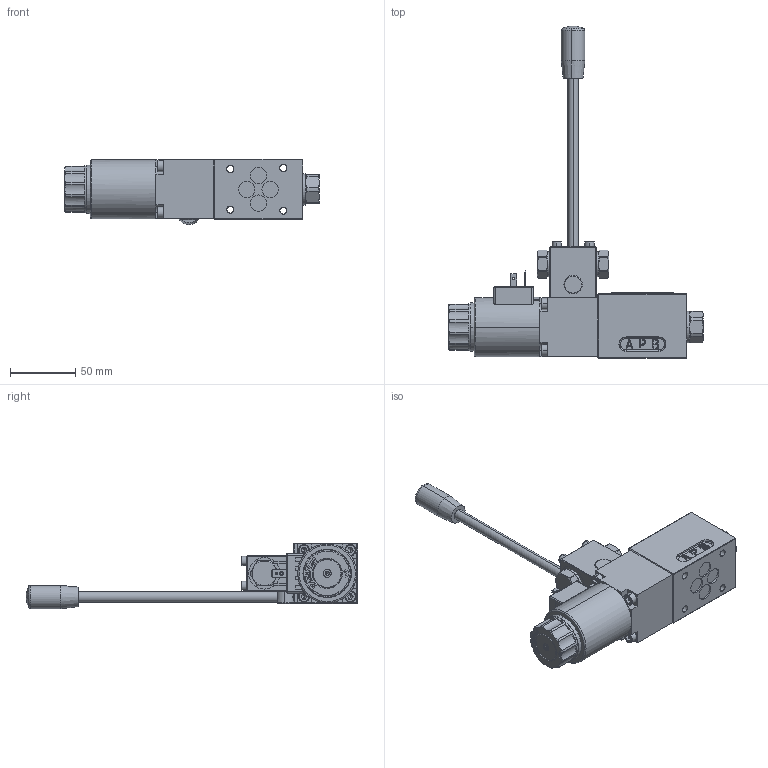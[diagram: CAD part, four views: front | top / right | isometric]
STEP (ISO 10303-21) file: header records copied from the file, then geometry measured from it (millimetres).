
FILE_DESCRIPTION (( 'STEP AP214' ), '1' );
FILE_NAME ('WDMFA06-AB1--R115-WD-Z568.STEP', '2024-02-26T10:14:33', ( '' ), ( '' ), 'SwSTEP 2.0', 'SolidWorks 2022', '' );
FILE_SCHEMA (( 'AUTOMOTIVE_DESIGN' ));
Length unit declared in the file: millimetre
Products named in the file (1): WDMFA06-AB1--R115-WD-Z568
Bounding box: 194.7 x 253.5 x 50 mm (x, y, z)
Volume: 409790.2 mm3; surface area: 55990.8 mm2
Topology: 1 solids, 1 shells, 927 faces, 2309 edges, 1428 vertices
Faces by surface type: plane 493, cylinder 241, cone 69, bspline 56, torus 48, sphere 20
Entity records: 40024 total; most frequent: CARTESIAN_POINT 8267, ORIENTED_EDGE 4548, DIRECTION 4505, EDGE_CURVE 2274, AXIS2_PLACEMENT_3D 1575, VERTEX_POINT 1428, LINE 1355, VECTOR 1355
